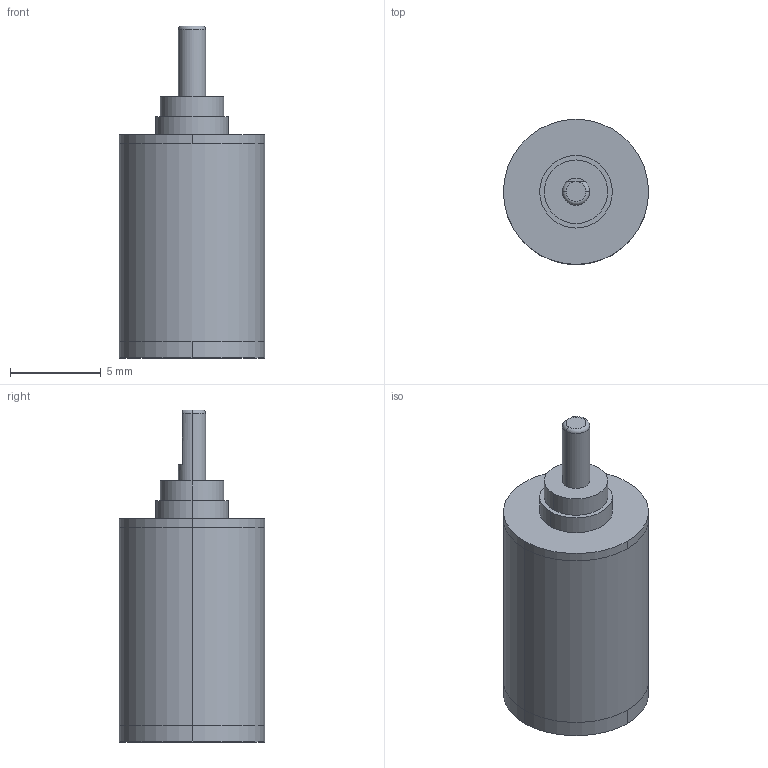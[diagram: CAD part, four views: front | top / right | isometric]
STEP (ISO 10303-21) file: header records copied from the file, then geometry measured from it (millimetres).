
FILE_DESCRIPTION (( 'STEP AP203' ), '1' );
FILE_NAME ('IG-08(I)-2stage.STEP', '2023-03-23T01:12:29', ( '' ), ( '' ), 'SwSTEP 2.0', 'SolidWorks 2019', '' );
FILE_SCHEMA (( 'CONFIG_CONTROL_DESIGN' ));
Length unit declared in the file: millimetre
Products named in the file (1): IG-08(I)-2stage
Bounding box: 8 x 8 x 18.3 mm (x, y, z)
Volume: 694.1 mm3; surface area: 726 mm2
Topology: 3 solids, 3 shells, 35 faces, 66 edges, 43 vertices
Faces by surface type: cylinder 18, plane 14, torus 3
Entity records: 982 total; most frequent: DIRECTION 179, CARTESIAN_POINT 159, ORIENTED_EDGE 132, AXIS2_PLACEMENT_3D 79, EDGE_CURVE 66, VERTEX_POINT 43, CIRCLE 43, EDGE_LOOP 41
